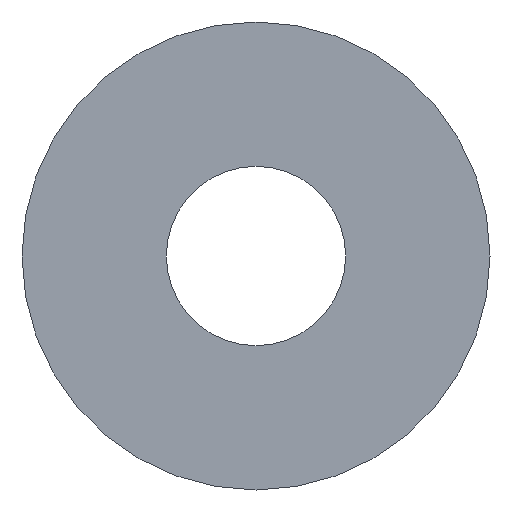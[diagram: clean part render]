
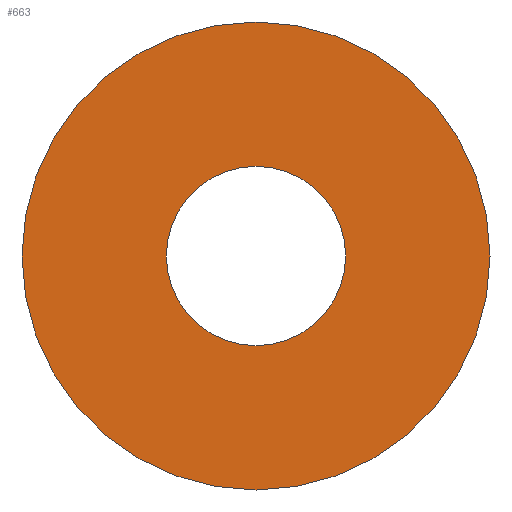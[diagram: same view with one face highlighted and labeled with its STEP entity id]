
A CAD part, front view. The second image highlights one B-rep face of the part: STEP entity #663.
In plain terms, the highlighted planar face has unit normal (0, -1, 0).
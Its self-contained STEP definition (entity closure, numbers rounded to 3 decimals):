
#130 = DIRECTION ( 'NONE',  ( 0., 0., -1. ) ) ;
#663 = ADVANCED_FACE ( 'NONE', ( #1487, #10279 ), #5996, .T. ) ;
#775 = DIRECTION ( 'NONE',  ( 0., -1., 0. ) ) ;
#1250 = DIRECTION ( 'NONE',  ( 0., -1., 0. ) ) ;
#1487 = FACE_OUTER_BOUND ( 'NONE', #9803, .T. ) ;
#1810 = CIRCLE ( 'NONE', #8065, 11.5 ) ;
#1845 = DIRECTION ( 'NONE',  ( 0., 0., -1. ) ) ;
#1978 = CIRCLE ( 'NONE', #8804, 30. ) ;
#2180 = DIRECTION ( 'NONE',  ( 0., 0., -1. ) ) ;
#2912 = CARTESIAN_POINT ( 'NONE',  ( 0., 0., -11.5 ) ) ;
#3282 = CARTESIAN_POINT ( 'NONE',  ( 11.5, 0., 0. ) ) ;
#3300 = ORIENTED_EDGE ( 'NONE', *, *, #4517, .F. ) ;
#4442 = DIRECTION ( 'NONE',  ( 0., -1., 0. ) ) ;
#4517 = EDGE_CURVE ( 'NONE', #4967, #7314, #1810, .T. ) ;
#4534 = DIRECTION ( 'NONE',  ( 0., -1., 0. ) ) ;
#4694 = CARTESIAN_POINT ( 'NONE',  ( 0., 0., 0. ) ) ;
#4752 = CIRCLE ( 'NONE', #9448, 11.5 ) ;
#4967 = VERTEX_POINT ( 'NONE', #6578 ) ;
#4969 = AXIS2_PLACEMENT_3D ( 'NONE', #4694, #775, #10021 ) ;
#5013 = VERTEX_POINT ( 'NONE', #5868 ) ;
#5553 = CARTESIAN_POINT ( 'NONE',  ( 0., 0., -30. ) ) ;
#5801 = VERTEX_POINT ( 'NONE', #5553 ) ;
#5868 = CARTESIAN_POINT ( 'NONE',  ( 0., 0., 30. ) ) ;
#5953 = EDGE_CURVE ( 'NONE', #5801, #5013, #1978, .T. ) ;
#5996 = PLANE ( 'NONE',  #10438 ) ;
#6573 = DIRECTION ( 'NONE',  ( 0., 0., -1. ) ) ;
#6578 = CARTESIAN_POINT ( 'NONE',  ( 0., 0., 11.5 ) ) ;
#7314 = VERTEX_POINT ( 'NONE', #2912 ) ;
#7548 = ORIENTED_EDGE ( 'NONE', *, *, #8875, .T. ) ;
#7579 = CIRCLE ( 'NONE', #4969, 30. ) ;
#8065 = AXIS2_PLACEMENT_3D ( 'NONE', #8258, #4442, #2180 ) ;
#8258 = CARTESIAN_POINT ( 'NONE',  ( 0., 0., 0. ) ) ;
#8588 = EDGE_LOOP ( 'NONE', ( #9026, #3300 ) ) ;
#8804 = AXIS2_PLACEMENT_3D ( 'NONE', #11101, #4534, #1845 ) ;
#8875 = EDGE_CURVE ( 'NONE', #5013, #5801, #7579, .T. ) ;
#8899 = DIRECTION ( 'NONE',  ( 0., -1., 0. ) ) ;
#9026 = ORIENTED_EDGE ( 'NONE', *, *, #10647, .F. ) ;
#9448 = AXIS2_PLACEMENT_3D ( 'NONE', #10160, #1250, #6573 ) ;
#9803 = EDGE_LOOP ( 'NONE', ( #10071, #7548 ) ) ;
#10021 = DIRECTION ( 'NONE',  ( 0., 0., -1. ) ) ;
#10071 = ORIENTED_EDGE ( 'NONE', *, *, #5953, .T. ) ;
#10160 = CARTESIAN_POINT ( 'NONE',  ( 0., 0., 0. ) ) ;
#10279 = FACE_BOUND ( 'NONE', #8588, .T. ) ;
#10438 = AXIS2_PLACEMENT_3D ( 'NONE', #3282, #8899, #130 ) ;
#10647 = EDGE_CURVE ( 'NONE', #7314, #4967, #4752, .T. ) ;
#11101 = CARTESIAN_POINT ( 'NONE',  ( 0., 0., 0. ) ) ;
